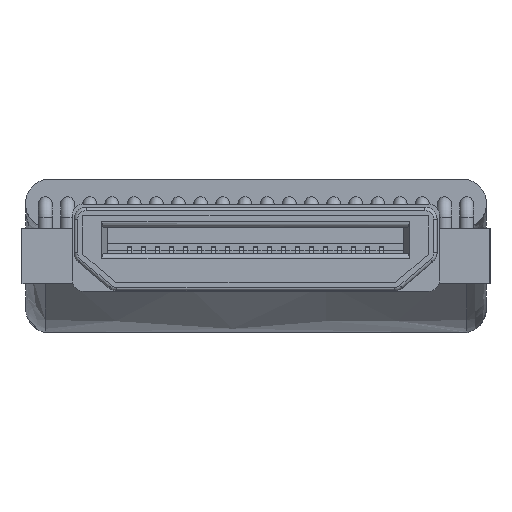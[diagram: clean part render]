
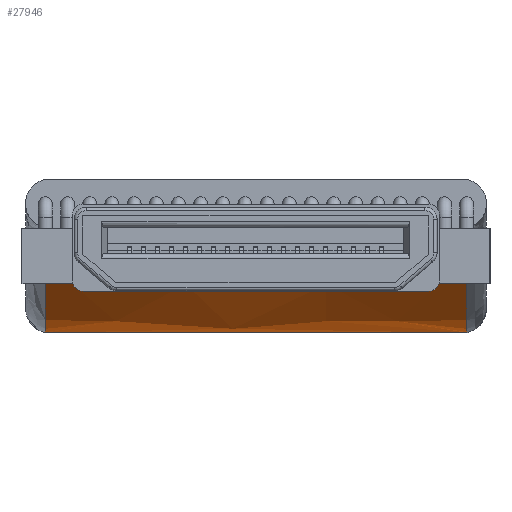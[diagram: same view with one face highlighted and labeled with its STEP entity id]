
A CAD part, front view. The second image highlights one B-rep face of the part: STEP entity #27946.
In plain terms, the highlighted free-form (B-spline) face has degree [3, 3] with [4, 9] control points.
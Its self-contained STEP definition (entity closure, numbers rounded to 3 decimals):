
#26865 = VERTEX_POINT('',#26866);
#26866 = CARTESIAN_POINT('',(0.,-1.4,-20.)
  );
#26872 = EDGE_CURVE('',#26865,#26873,#26875,.T.);
#26873 = VERTEX_POINT('',#26874);
#26874 = CARTESIAN_POINT('',(12.065,-1.4,-20.));
#26875 = LINE('',#26876,#26877);
#26876 = CARTESIAN_POINT('',(12.065,-1.4,-20.));
#26877 = VECTOR('',#26878,1.);
#26878 = DIRECTION('',(1.,0.,0.));
#27875 = EDGE_CURVE('',#26873,#27876,#27878,.T.);
#27876 = VERTEX_POINT('',#27877);
#27877 = CARTESIAN_POINT('',(12.065,-4.4,
    -30.025));
#27878 = B_SPLINE_CURVE_WITH_KNOTS('',3,(#27879,#27880,#27881,#27882,
    #27883,#27884,#27885,#27886,#27887),.UNSPECIFIED.,.F.,.F.,(4,1,1,1,1
    ,1,4),(0.,0.184,0.368,0.552,
    0.696,0.842,1.),.UNSPECIFIED.);
#27879 = CARTESIAN_POINT('',(12.065,-1.4,-20.));
#27880 = CARTESIAN_POINT('',(12.065,-1.437,
    -20.601));
#27881 = CARTESIAN_POINT('',(12.065,-1.51,
    -21.803));
#27882 = CARTESIAN_POINT('',(12.065,-2.079,
    -23.473));
#27883 = CARTESIAN_POINT('',(12.065,-2.941,
    -24.987));
#27884 = CARTESIAN_POINT('',(12.065,-3.756,
    -26.516));
#27885 = CARTESIAN_POINT('',(12.065,-4.375,
    -28.175));
#27886 = CARTESIAN_POINT('',(12.065,-4.392,
    -29.393));
#27887 = CARTESIAN_POINT('',(12.065,-4.4,
    -30.025));
#27946 = ADVANCED_FACE('',(#27947),#27971,.T.);
#27947 = FACE_BOUND('',#27948,.T.);
#27948 = EDGE_LOOP('',(#27949,#27950,#27964,#27970));
#27949 = ORIENTED_EDGE('',*,*,#26872,.F.);
#27950 = ORIENTED_EDGE('',*,*,#27951,.T.);
#27951 = EDGE_CURVE('',#26865,#27952,#27954,.T.);
#27952 = VERTEX_POINT('',#27953);
#27953 = CARTESIAN_POINT('',(0.,-4.4,
    -30.025));
#27954 = B_SPLINE_CURVE_WITH_KNOTS('',3,(#27955,#27956,#27957,#27958,
    #27959,#27960,#27961,#27962,#27963),.UNSPECIFIED.,.F.,.F.,(4,1,1,1,1
    ,1,4),(0.,0.184,0.368,0.552,
    0.696,0.842,1.),.UNSPECIFIED.);
#27955 = CARTESIAN_POINT('',(0.,-1.4,-20.));
#27956 = CARTESIAN_POINT('',(0.,-1.437,
    -20.601));
#27957 = CARTESIAN_POINT('',(0.,-1.51,
    -21.803));
#27958 = CARTESIAN_POINT('',(0.,-2.079,
    -23.473));
#27959 = CARTESIAN_POINT('',(0.,-2.941,
    -24.987));
#27960 = CARTESIAN_POINT('',(0.,-3.756,
    -26.516));
#27961 = CARTESIAN_POINT('',(0.,-4.375,
    -28.175));
#27962 = CARTESIAN_POINT('',(0.,-4.392,
    -29.393));
#27963 = CARTESIAN_POINT('',(0.,-4.4,
    -30.025));
#27964 = ORIENTED_EDGE('',*,*,#27965,.F.);
#27965 = EDGE_CURVE('',#27876,#27952,#27966,.T.);
#27966 = LINE('',#27967,#27968);
#27967 = CARTESIAN_POINT('',(6.032,-4.4,
    -30.025));
#27968 = VECTOR('',#27969,1.);
#27969 = DIRECTION('',(-1.,0.,0.));
#27970 = ORIENTED_EDGE('',*,*,#27875,.F.);
#27971 = B_SPLINE_SURFACE_WITH_KNOTS('',3,3,(
    (#27972,#27973,#27974,#27975,#27976,#27977,#27978,#27979,#27980)
    ,(#27981,#27982,#27983,#27984,#27985,#27986,#27987,#27988,#27989)
    ,(#27990,#27991,#27992,#27993,#27994,#27995,#27996,#27997,#27998)
    ,(#27999,#28000,#28001,#28002,#28003,#28004,#28005,#28006,#28007
  )),.UNSPECIFIED.,.F.,.F.,.F.,(4,4),(4,1,1,1,1,1,4),(
    0.052,0.5),(0.,0.184,0.368,
    0.552,0.696,0.842,1.),.UNSPECIFIED.);
#27972 = CARTESIAN_POINT('',(12.065,-1.4,-20.));
#27973 = CARTESIAN_POINT('',(12.065,-1.437,
    -20.601));
#27974 = CARTESIAN_POINT('',(12.065,-1.51,
    -21.803));
#27975 = CARTESIAN_POINT('',(12.065,-2.079,
    -23.473));
#27976 = CARTESIAN_POINT('',(12.065,-2.941,
    -24.987));
#27977 = CARTESIAN_POINT('',(12.065,-3.756,
    -26.516));
#27978 = CARTESIAN_POINT('',(12.065,-4.375,
    -28.175));
#27979 = CARTESIAN_POINT('',(12.065,-4.392,
    -29.393));
#27980 = CARTESIAN_POINT('',(12.065,-4.4,
    -30.025));
#27981 = CARTESIAN_POINT('',(8.043,-1.4,-20.));
#27982 = CARTESIAN_POINT('',(8.043,-1.437,
    -20.601));
#27983 = CARTESIAN_POINT('',(8.043,-1.51,
    -21.803));
#27984 = CARTESIAN_POINT('',(8.043,-2.079,
    -23.473));
#27985 = CARTESIAN_POINT('',(8.043,-2.941,
    -24.987));
#27986 = CARTESIAN_POINT('',(8.043,-3.756,
    -26.516));
#27987 = CARTESIAN_POINT('',(8.043,-4.375,
    -28.175));
#27988 = CARTESIAN_POINT('',(8.043,-4.392,
    -29.393));
#27989 = CARTESIAN_POINT('',(8.043,-4.4,
    -30.025));
#27990 = CARTESIAN_POINT('',(4.022,-1.4,-20.));
#27991 = CARTESIAN_POINT('',(4.022,-1.437,
    -20.601));
#27992 = CARTESIAN_POINT('',(4.022,-1.51,
    -21.803));
#27993 = CARTESIAN_POINT('',(4.022,-2.079,
    -23.473));
#27994 = CARTESIAN_POINT('',(4.022,-2.941,
    -24.987));
#27995 = CARTESIAN_POINT('',(4.022,-3.756,
    -26.516));
#27996 = CARTESIAN_POINT('',(4.022,-4.375,
    -28.175));
#27997 = CARTESIAN_POINT('',(4.022,-4.392,
    -29.393));
#27998 = CARTESIAN_POINT('',(4.022,-4.4,
    -30.025));
#27999 = CARTESIAN_POINT('',(0.,-1.4,-20.));
#28000 = CARTESIAN_POINT('',(0.,-1.437,
    -20.601));
#28001 = CARTESIAN_POINT('',(0.,-1.51,
    -21.803));
#28002 = CARTESIAN_POINT('',(0.,-2.079,
    -23.473));
#28003 = CARTESIAN_POINT('',(0.,-2.941,
    -24.987));
#28004 = CARTESIAN_POINT('',(0.,-3.756,
    -26.516));
#28005 = CARTESIAN_POINT('',(0.,-4.375,
    -28.175));
#28006 = CARTESIAN_POINT('',(0.,-4.392,
    -29.393));
#28007 = CARTESIAN_POINT('',(0.,-4.4,
    -30.025));
